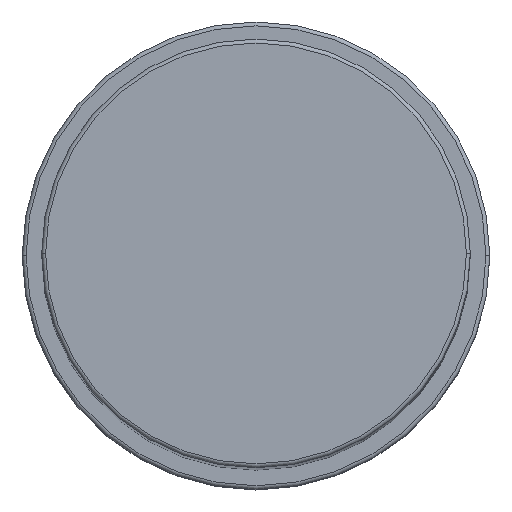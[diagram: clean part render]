
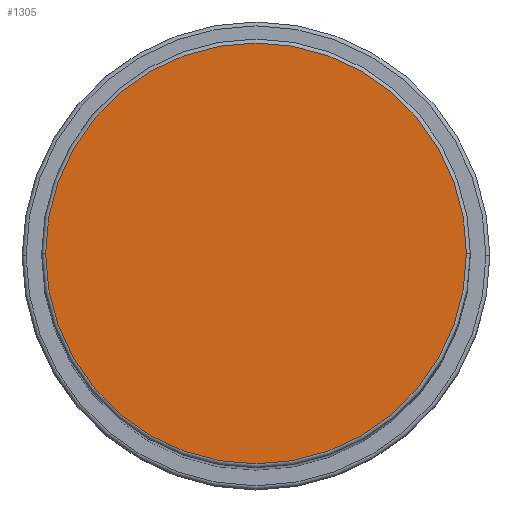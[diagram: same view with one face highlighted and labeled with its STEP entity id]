
A CAD part, top view. The second image highlights one B-rep face of the part: STEP entity #1305.
In plain terms, the highlighted planar face has unit normal (0, 0, 1).
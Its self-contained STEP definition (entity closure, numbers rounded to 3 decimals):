
#63 = DIRECTION ( 'NONE',  ( 1., 0., 0. ) ) ;
#72 = CARTESIAN_POINT ( 'NONE',  ( 27., 0., 188. ) ) ;
#133 = DIRECTION ( 'NONE',  ( 0., 0., 1. ) ) ;
#252 = VERTEX_POINT ( 'NONE', #72 ) ;
#322 = CIRCLE ( 'NONE', #1543, 27. ) ;
#387 = VERTEX_POINT ( 'NONE', #1229 ) ;
#505 = ORIENTED_EDGE ( 'NONE', *, *, #1326, .T. ) ;
#675 = CARTESIAN_POINT ( 'NONE',  ( 0., 0., 188. ) ) ;
#740 = CARTESIAN_POINT ( 'NONE',  ( 0., 0., 188. ) ) ;
#774 = FACE_OUTER_BOUND ( 'NONE', #873, .T. ) ;
#873 = EDGE_LOOP ( 'NONE', ( #1588, #505 ) ) ;
#907 = DIRECTION ( 'NONE',  ( 1., 0., 0. ) ) ;
#969 = CIRCLE ( 'NONE', #1279, 27. ) ;
#983 = EDGE_CURVE ( 'NONE', #252, #387, #969, .T. ) ;
#1040 = DIRECTION ( 'NONE',  ( 0., 0., 1. ) ) ;
#1104 = DIRECTION ( 'NONE',  ( 1., 0., 0. ) ) ;
#1229 = CARTESIAN_POINT ( 'NONE',  ( -27., 0., 188. ) ) ;
#1279 = AXIS2_PLACEMENT_3D ( 'NONE', #675, #133, #1104 ) ;
#1305 = ADVANCED_FACE ( 'NONE', ( #774 ), #1446, .T. ) ;
#1312 = DIRECTION ( 'NONE',  ( 0., 0., 1. ) ) ;
#1326 = EDGE_CURVE ( 'NONE', #387, #252, #322, .T. ) ;
#1446 = PLANE ( 'NONE',  #1765 ) ;
#1453 = CARTESIAN_POINT ( 'NONE',  ( 0., 0., 188. ) ) ;
#1543 = AXIS2_PLACEMENT_3D ( 'NONE', #740, #1040, #63 ) ;
#1588 = ORIENTED_EDGE ( 'NONE', *, *, #983, .T. ) ;
#1765 = AXIS2_PLACEMENT_3D ( 'NONE', #1453, #1312, #907 ) ;
